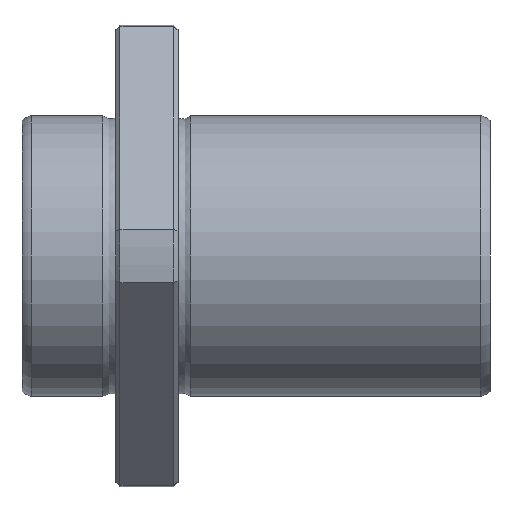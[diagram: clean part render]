
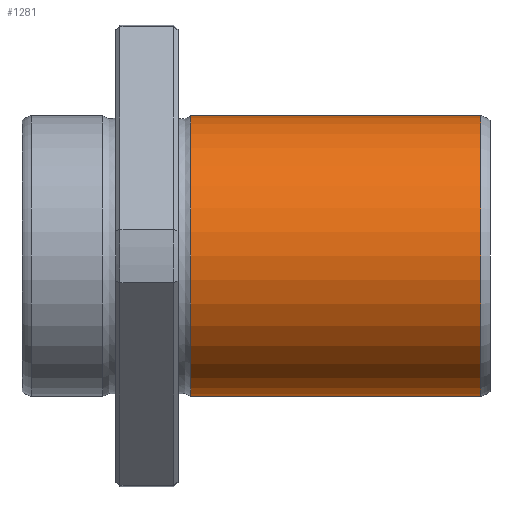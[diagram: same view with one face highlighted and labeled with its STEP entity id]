
A CAD part, front view. The second image highlights one B-rep face of the part: STEP entity #1281.
In plain terms, the highlighted cylindrical face has radius 22.5 mm (diameter 45 mm), a full revolution.
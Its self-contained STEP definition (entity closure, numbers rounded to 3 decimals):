
#1247=CARTESIAN_POINT('',(73.502,0.0,22.5));
#1248=VERTEX_POINT('',#1247);
#1249=CARTESIAN_POINT('',(73.502,0.0,0.0));
#1250=DIRECTION('',(-1.0,0.0,0.0));
#1251=DIRECTION('',(0.0,0.0,1.0));
#1252=AXIS2_PLACEMENT_3D('',#1249,#1250,#1251);
#1253=CIRCLE('',#1252,22.5);
#1254=EDGE_CURVE('',#1248,#1248,#1253,.T.);
#1262=CARTESIAN_POINT('',(50.262,0.0,0.0));
#1263=DIRECTION('',(-1.0,0.0,0.0));
#1264=DIRECTION('',(0.0,0.0,1.0));
#1265=AXIS2_PLACEMENT_3D('',#1262,#1263,#1264);
#1266=CYLINDRICAL_SURFACE('',#1265,22.5);
#1267=CARTESIAN_POINT('',(27.023,0.0,22.5));
#1268=VERTEX_POINT('',#1267);
#1269=CARTESIAN_POINT('',(27.023,0.0,0.0));
#1270=DIRECTION('',(-1.0,0.0,0.0));
#1271=DIRECTION('',(0.0,0.0,1.0));
#1272=AXIS2_PLACEMENT_3D('',#1269,#1270,#1271);
#1273=CIRCLE('',#1272,22.5);
#1274=EDGE_CURVE('',#1268,#1268,#1273,.T.);
#1275=ORIENTED_EDGE('',*,*,#1274,.F.);
#1276=EDGE_LOOP('',(#1275));
#1277=FACE_OUTER_BOUND('',#1276,.T.);
#1278=ORIENTED_EDGE('',*,*,#1254,.T.);
#1279=EDGE_LOOP('',(#1278));
#1280=FACE_BOUND('',#1279,.T.);
#1281=ADVANCED_FACE('',(#1277,#1280),#1266,.T.);
